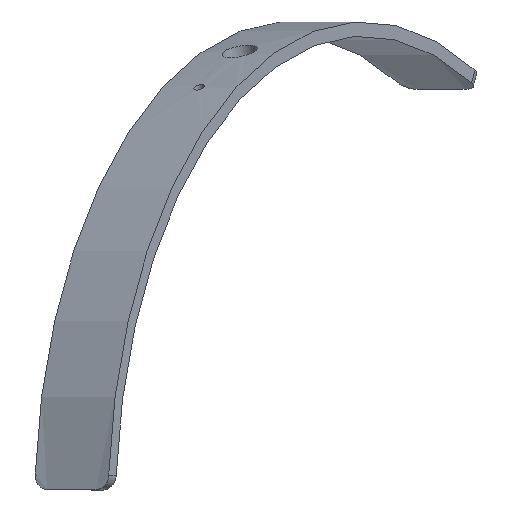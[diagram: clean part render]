
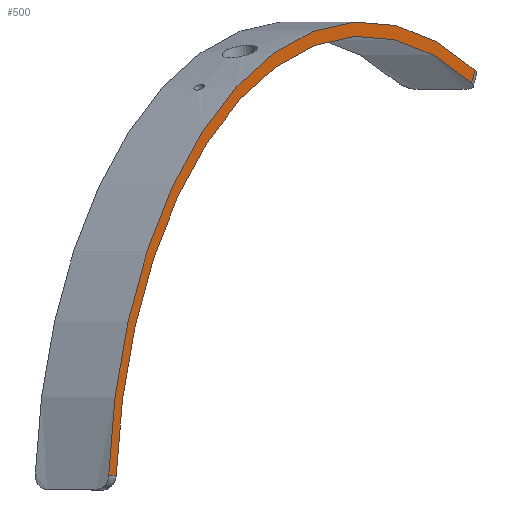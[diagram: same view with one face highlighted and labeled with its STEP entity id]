
A CAD part, left-side view. The second image highlights one B-rep face of the part: STEP entity #500.
In plain terms, the highlighted planar face has unit normal (-0.522, -0.853, 0).
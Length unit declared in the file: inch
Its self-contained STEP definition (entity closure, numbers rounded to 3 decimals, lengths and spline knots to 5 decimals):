
#3 = CARTESIAN_POINT ( 'NONE',  ( 112.66224, -72.55799, 29.83716 ) ) ;
#28 = CARTESIAN_POINT ( 'NONE',  ( 100.43392, -65.06447, 0. ) ) ;
#44 = CARTESIAN_POINT ( 'NONE',  ( 100.47255, -65.08814, 0.99897 ) ) ;
#45 = EDGE_CURVE ( 'NONE', #829, #214, #348, .T. ) ;
#50 = CARTESIAN_POINT ( 'NONE',  ( 100.43392, -65.06447, 0. ) ) ;
#53 = EDGE_CURVE ( 'NONE', #123, #829, #82, .T. ) ;
#82 = CIRCLE ( 'NONE', #749, 34.105 ) ;
#111 = ORIENTED_EDGE ( 'NONE', *, *, #53, .T. ) ;
#123 = VERTEX_POINT ( 'NONE', #918 ) ;
#193 = EDGE_CURVE ( 'NONE', #430, #214, #616, .T. ) ;
#214 = VERTEX_POINT ( 'NONE', #696 ) ;
#333 = FACE_OUTER_BOUND ( 'NONE', #857, .T. ) ;
#348 = LINE ( 'NONE', #44, #579 ) ;
#376 = DIRECTION ( 'NONE',  ( -0.522, -0.853, 0. ) ) ;
#380 = DIRECTION ( 'NONE',  ( 0.392, -0.24, 0.888 ) ) ;
#394 = AXIS2_PLACEMENT_3D ( 'NONE', #629, #376, #774 ) ;
#430 = VERTEX_POINT ( 'NONE', #3 ) ;
#443 = ORIENTED_EDGE ( 'NONE', *, *, #45, .T. ) ;
#500 = ADVANCED_FACE ( 'NONE', ( #333 ), #734, .F. ) ;
#515 = DIRECTION ( 'NONE',  ( 0.852, -0.522, -0.045 ) ) ;
#540 = LINE ( 'NONE', #719, #1016 ) ;
#579 = VECTOR ( 'NONE', #515, 39.37008 ) ;
#598 = AXIS2_PLACEMENT_3D ( 'NONE', #28, #645, #656 ) ;
#616 = CIRCLE ( 'NONE', #394, 33.105 ) ;
#629 = CARTESIAN_POINT ( 'NONE',  ( 100.43392, -65.06447, 0. ) ) ;
#645 = DIRECTION ( 'NONE',  ( 0.522, 0.853, 0. ) ) ;
#656 = DIRECTION ( 'NONE',  ( -0.853, 0.522, 0. ) ) ;
#678 = DIRECTION ( 'NONE',  ( -0.522, -0.853, 0. ) ) ;
#696 = CARTESIAN_POINT ( 'NONE',  ( 72.28775, -47.81648, 2.49829 ) ) ;
#719 = CARTESIAN_POINT ( 'NONE',  ( 99.67695, -64.6006, 0.46025 ) ) ;
#734 = PLANE ( 'NONE',  #598 ) ;
#749 = AXIS2_PLACEMENT_3D ( 'NONE', #50, #678, #1000 ) ;
#774 = DIRECTION ( 'NONE',  ( 0.853, -0.522, 0. ) ) ;
#829 = VERTEX_POINT ( 'NONE', #1017 ) ;
#836 = ORIENTED_EDGE ( 'NONE', *, *, #193, .F. ) ;
#847 = EDGE_CURVE ( 'NONE', #430, #123, #540, .T. ) ;
#857 = EDGE_LOOP ( 'NONE', ( #111, #443, #836, #920 ) ) ;
#918 = CARTESIAN_POINT ( 'NONE',  ( 113.05484, -72.79858, 30.72535 ) ) ;
#920 = ORIENTED_EDGE ( 'NONE', *, *, #847, .T. ) ;
#1000 = DIRECTION ( 'NONE',  ( 0.853, -0.522, 0. ) ) ;
#1016 = VECTOR ( 'NONE', #380, 39.37008 ) ;
#1017 = CARTESIAN_POINT ( 'NONE',  ( 71.43561, -47.29428, 2.54362 ) ) ;
